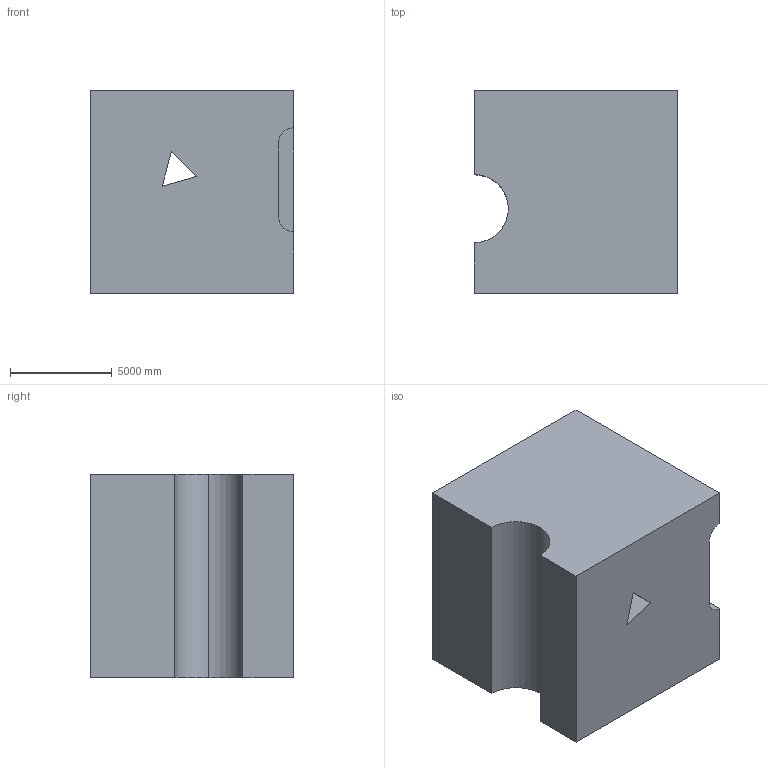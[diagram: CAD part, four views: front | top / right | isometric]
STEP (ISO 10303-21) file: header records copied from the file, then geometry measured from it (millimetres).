
FILE_DESCRIPTION (( 'STEP AP203' ), '1' );
FILE_NAME ('254.STEP', '2022-07-28T14:06:53', ( 'user' ), ( '' ), 'SwSTEP 2.0', 'SolidWorks 2021', '' );
FILE_SCHEMA (( 'CONFIG_CONTROL_DESIGN' ));
Length unit declared in the file: centimetre
Products named in the file (1): 254
Bounding box: 10000 x 10000 x 10000 mm (x, y, z)
Volume: 919893171258.3 mm3; surface area: 665615462.7 mm2
Topology: 1 solids, 1 shells, 16 faces, 42 edges, 28 vertices
Faces by surface type: plane 12, cylinder 4
Entity records: 575 total; most frequent: CARTESIAN_POINT 87, ORIENTED_EDGE 84, DIRECTION 84, EDGE_CURVE 42, LINE 34, VECTOR 34, VERTEX_POINT 28, AXIS2_PLACEMENT_3D 25
